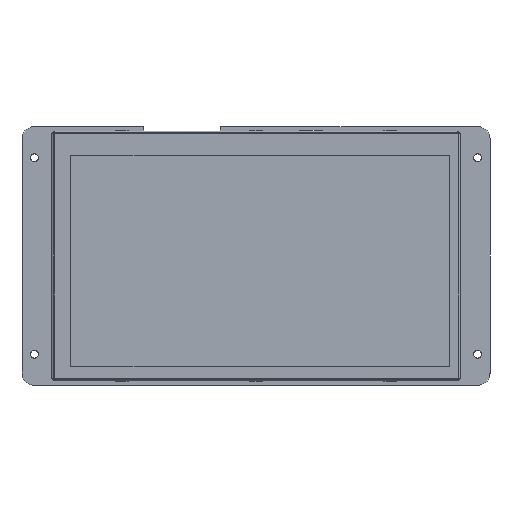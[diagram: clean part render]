
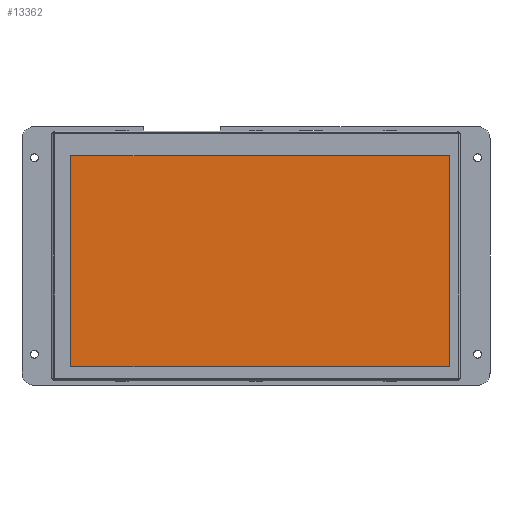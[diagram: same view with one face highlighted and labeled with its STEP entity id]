
A CAD part, front view. The second image highlights one B-rep face of the part: STEP entity #13362.
In plain terms, the highlighted planar face has unit normal (0, -1, 0).
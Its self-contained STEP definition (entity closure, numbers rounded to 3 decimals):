
#1253 = EDGE_CURVE ( 'NONE', #12895, #4888, #14745, .T. ) ;
#1432 = ORIENTED_EDGE ( 'NONE', *, *, #6693, .T. ) ;
#1644 = CARTESIAN_POINT ( 'NONE',  ( 160.83, -0.6, -9.15 ) ) ;
#1992 = EDGE_LOOP ( 'NONE', ( #17070, #1432, #10008, #15434 ) ) ;
#2196 = LINE ( 'NONE', #8514, #9626 ) ;
#2860 = CARTESIAN_POINT ( 'NONE',  ( 6.75, -0.6, -95.07 ) ) ;
#3063 = CARTESIAN_POINT ( 'NONE',  ( 160.83, -0.6, -95.07 ) ) ;
#4010 = FACE_OUTER_BOUND ( 'NONE', #1992, .T. ) ;
#4112 = VECTOR ( 'NONE', #6023, 1000. ) ;
#4488 = DIRECTION ( 'NONE',  ( 0., 1., 0. ) ) ;
#4888 = VERTEX_POINT ( 'NONE', #12780 ) ;
#6023 = DIRECTION ( 'NONE',  ( 1., 0., 0. ) ) ;
#6205 = EDGE_CURVE ( 'NONE', #4888, #6835, #15702, .T. ) ;
#6693 = EDGE_CURVE ( 'NONE', #7829, #12895, #2196, .T. ) ;
#6835 = VERTEX_POINT ( 'NONE', #11039 ) ;
#7829 = VERTEX_POINT ( 'NONE', #12404 ) ;
#8377 = VECTOR ( 'NONE', #10003, 1000. ) ;
#8514 = CARTESIAN_POINT ( 'NONE',  ( 6.75, -0.6, -95.07 ) ) ;
#8810 = EDGE_CURVE ( 'NONE', #6835, #7829, #16563, .T. ) ;
#9626 = VECTOR ( 'NONE', #11960, 1000. ) ;
#10003 = DIRECTION ( 'NONE',  ( 0., 0., 1. ) ) ;
#10008 = ORIENTED_EDGE ( 'NONE', *, *, #1253, .T. ) ;
#11039 = CARTESIAN_POINT ( 'NONE',  ( 160.83, -0.6, -9.15 ) ) ;
#11960 = DIRECTION ( 'NONE',  ( 0., 0., -1. ) ) ;
#12404 = CARTESIAN_POINT ( 'NONE',  ( 6.75, -0.6, -9.15 ) ) ;
#12406 = DIRECTION ( 'NONE',  ( -1., 0., 0. ) ) ;
#12765 = PLANE ( 'NONE',  #13507 ) ;
#12780 = CARTESIAN_POINT ( 'NONE',  ( 160.83, -0.6, -95.07 ) ) ;
#12818 = CARTESIAN_POINT ( 'NONE',  ( 0., -0.6, 0. ) ) ;
#12895 = VERTEX_POINT ( 'NONE', #2860 ) ;
#13362 = ADVANCED_FACE ( 'NONE', ( #4010 ), #12765, .F. ) ;
#13507 = AXIS2_PLACEMENT_3D ( 'NONE', #12818, #4488, #14213 ) ;
#13839 = CARTESIAN_POINT ( 'NONE',  ( 6.75, -0.6, -9.15 ) ) ;
#14213 = DIRECTION ( 'NONE',  ( 0., 0., 1. ) ) ;
#14609 = VECTOR ( 'NONE', #12406, 1000. ) ;
#14745 = LINE ( 'NONE', #3063, #4112 ) ;
#15434 = ORIENTED_EDGE ( 'NONE', *, *, #6205, .T. ) ;
#15702 = LINE ( 'NONE', #1644, #8377 ) ;
#16563 = LINE ( 'NONE', #13839, #14609 ) ;
#17070 = ORIENTED_EDGE ( 'NONE', *, *, #8810, .T. ) ;
